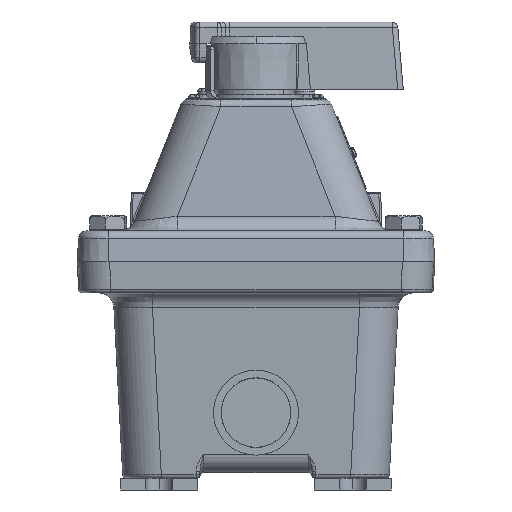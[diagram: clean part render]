
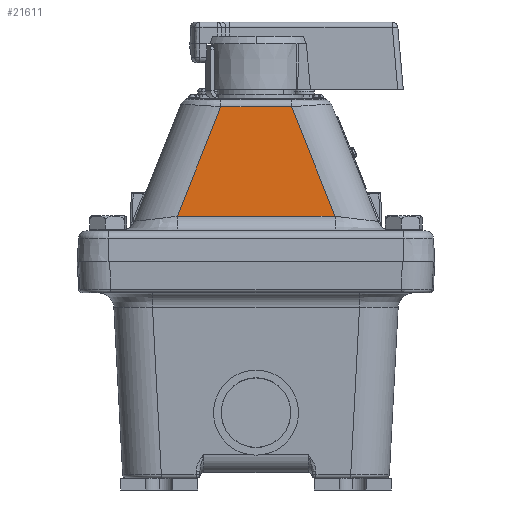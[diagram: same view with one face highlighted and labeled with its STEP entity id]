
A CAD part, front view. The second image highlights one B-rep face of the part: STEP entity #21611.
In plain terms, the highlighted planar face has unit normal (0, -0.999, 0.052).
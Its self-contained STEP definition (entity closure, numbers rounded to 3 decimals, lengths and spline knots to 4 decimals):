
#3350 = PLANE ( 'NONE',  #28762 ) ;
#12460 = CARTESIAN_POINT ( 'NONE',  ( -4.8866, 3.9187, -0.5921 ) ) ;
#12849 = EDGE_LOOP ( 'NONE', ( #15280, #22637, #32941, #41976 ) ) ;
#15025 = LINE ( 'NONE', #48878, #62833 ) ;
#15280 = ORIENTED_EDGE ( 'NONE', *, *, #17800, .T. ) ;
#16804 = EDGE_CURVE ( 'NONE', #63543, #90377, #61469, .T. ) ;
#17800 = EDGE_CURVE ( 'NONE', #90377, #76633, #15025, .T. ) ;
#19039 = LINE ( 'NONE', #52872, #76076 ) ;
#21611 = ADVANCED_FACE ( 'NONE', ( #87147 ), #3350, .T. ) ;
#22637 = ORIENTED_EDGE ( 'NONE', *, *, #62428, .T. ) ;
#26098 = CARTESIAN_POINT ( 'NONE',  ( -5.5905, 4.0114, 1.1775 ) ) ;
#28762 = AXIS2_PLACEMENT_3D ( 'NONE', #28876, #69938, #45008 ) ;
#28876 = CARTESIAN_POINT ( 'NONE',  ( -6.1642, 3.8768, -1.3915 ) ) ;
#30184 = DIRECTION ( 'NONE',  ( 1., 0., 0. ) ) ;
#32941 = ORIENTED_EDGE ( 'NONE', *, *, #81152, .T. ) ;
#33920 = VERTEX_POINT ( 'NONE', #12460 ) ;
#41976 = ORIENTED_EDGE ( 'NONE', *, *, #16804, .T. ) ;
#45008 = DIRECTION ( 'NONE',  ( -1., 0., 0. ) ) ;
#45583 = CARTESIAN_POINT ( 'NONE',  ( -7.4367, 3.9187, -0.5921 ) ) ;
#48651 = CARTESIAN_POINT ( 'NONE',  ( -6.7329, 4.0114, 1.1775 ) ) ;
#48878 = CARTESIAN_POINT ( 'NONE',  ( -7.4367, 3.9187, -0.5921 ) ) ;
#52872 = CARTESIAN_POINT ( 'NONE',  ( -5.5905, 4.0114, 1.1775 ) ) ;
#57163 = DIRECTION ( 'NONE',  ( -0.369, -0.049, -0.928 ) ) ;
#61469 = LINE ( 'NONE', #104173, #84300 ) ;
#62000 = DIRECTION ( 'NONE',  ( -1., 0., 0. ) ) ;
#62428 = EDGE_CURVE ( 'NONE', #76633, #33920, #82318, .T. ) ;
#62833 = VECTOR ( 'NONE', #57163, 39.3701 ) ;
#63543 = VERTEX_POINT ( 'NONE', #26098 ) ;
#69938 = DIRECTION ( 'NONE',  ( 0., -0.999, 0.052 ) ) ;
#76076 = VECTOR ( 'NONE', #86715, 39.3701 ) ;
#76633 = VERTEX_POINT ( 'NONE', #45583 ) ;
#81152 = EDGE_CURVE ( 'NONE', #33920, #63543, #19039, .T. ) ;
#82318 = LINE ( 'NONE', #106165, #87929 ) ;
#84300 = VECTOR ( 'NONE', #62000, 39.3701 ) ;
#86715 = DIRECTION ( 'NONE',  ( -0.369, 0.049, 0.928 ) ) ;
#87147 = FACE_OUTER_BOUND ( 'NONE', #12849, .T. ) ;
#87929 = VECTOR ( 'NONE', #30184, 39.3701 ) ;
#90377 = VERTEX_POINT ( 'NONE', #48651 ) ;
#104173 = CARTESIAN_POINT ( 'NONE',  ( -5.5905, 4.0114, 1.1775 ) ) ;
#106165 = CARTESIAN_POINT ( 'NONE',  ( -7.4367, 3.9187, -0.5921 ) ) ;
